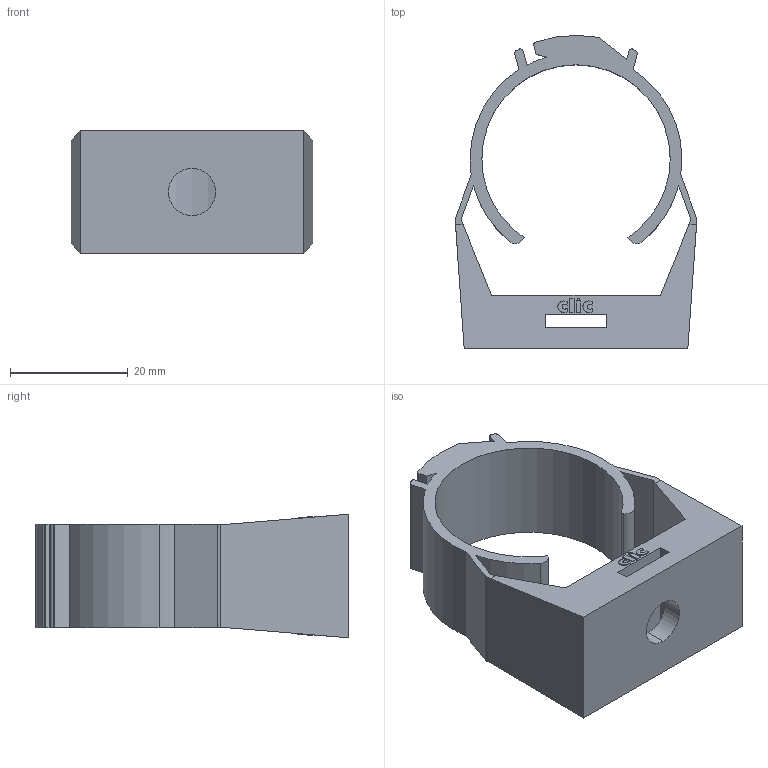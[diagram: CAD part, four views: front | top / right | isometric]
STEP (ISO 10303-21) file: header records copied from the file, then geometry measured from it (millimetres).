
FILE_DESCRIPTION (( 'STEP AP214' ), '1' );
FILE_NAME ('CLIC32.STEP', '2021-10-11T09:43:50', ( '' ), ( '' ), 'SwSTEP 2.0', 'SolidWorks 2021', '' );
FILE_SCHEMA (( 'AUTOMOTIVE_DESIGN' ));
Length unit declared in the file: millimetre
Products named in the file (1): CLIC32
Bounding box: 41.04 x 53.2 x 21 mm (x, y, z)
Volume: 11893.2 mm3; surface area: 8313.2 mm2
Topology: 1 solids, 1 shells, 118 faces, 324 edges, 216 vertices
Faces by surface type: plane 61, cylinder 29, bspline 28
Entity records: 3860 total; most frequent: CARTESIAN_POINT 1023, ORIENTED_EDGE 648, DIRECTION 508, EDGE_CURVE 324, VERTEX_POINT 216, LINE 210, VECTOR 210, AXIS2_PLACEMENT_3D 149
